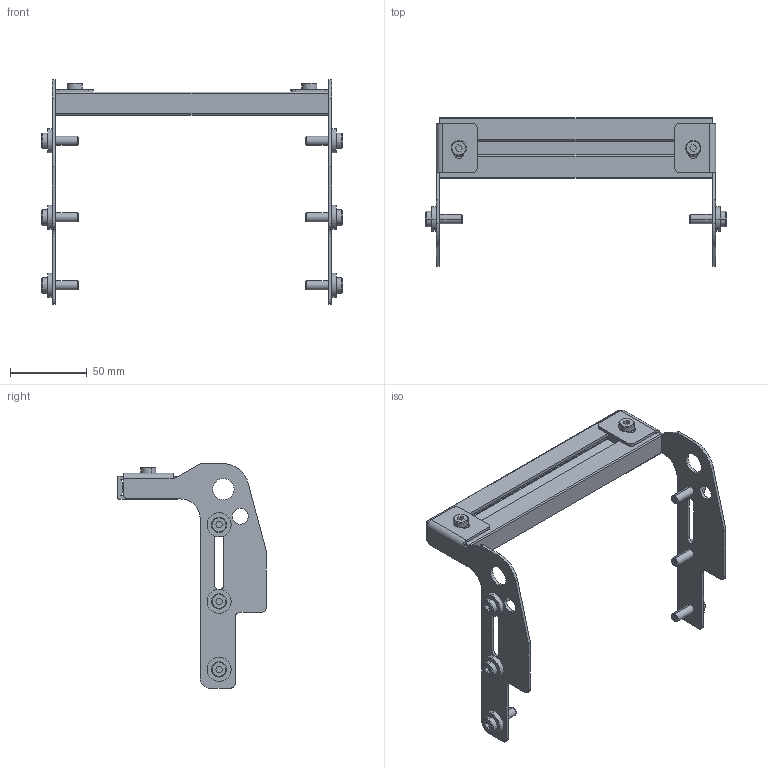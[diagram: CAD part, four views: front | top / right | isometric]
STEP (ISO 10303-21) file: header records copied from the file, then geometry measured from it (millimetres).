
FILE_DESCRIPTION (( 'STEP AP203' ), '1' );
FILE_NAME ('207215-06.STEP', '2020-07-15T19:51:22', ( '' ), ( '' ), 'SwSTEP 2.0', 'SolidWorks 2019', '' );
FILE_SCHEMA (( 'CONFIG_CONTROL_DESIGN' ));
Length unit declared in the file: inch
Products named in the file (8): 834-FASN-M6; 207132-LH; 207132-RH; 207217-WW_207217-06; 605279P; 9506XXM_950612M; 9506XXM_950620M; 207215-06
Assembly tree (19 placements, depth 2):
  207215-06
    207217-WW_207217-06
    834-FASN-M6  x2
    207132-RH
    207132-LH
    605279P  x6
    9506XXM_950620M  x6
    9506XXM_950612M  x2
Bounding box: 196.72 x 96.96 x 146.75 mm (x, y, z)
Volume: 83949.3 mm3; surface area: 79373 mm2
Topology: 19 solids, 19 shells, 366 faces, 888 edges, 576 vertices
Faces by surface type: plane 182, cylinder 152, cone 32
Entity records: 8176 total; most frequent: DIRECTION 1286, CARTESIAN_POINT 1204, ORIENTED_EDGE 1164, EDGE_CURVE 582, AXIS2_PLACEMENT_3D 462, VERTEX_POINT 380, VECTOR 362, LINE 362
